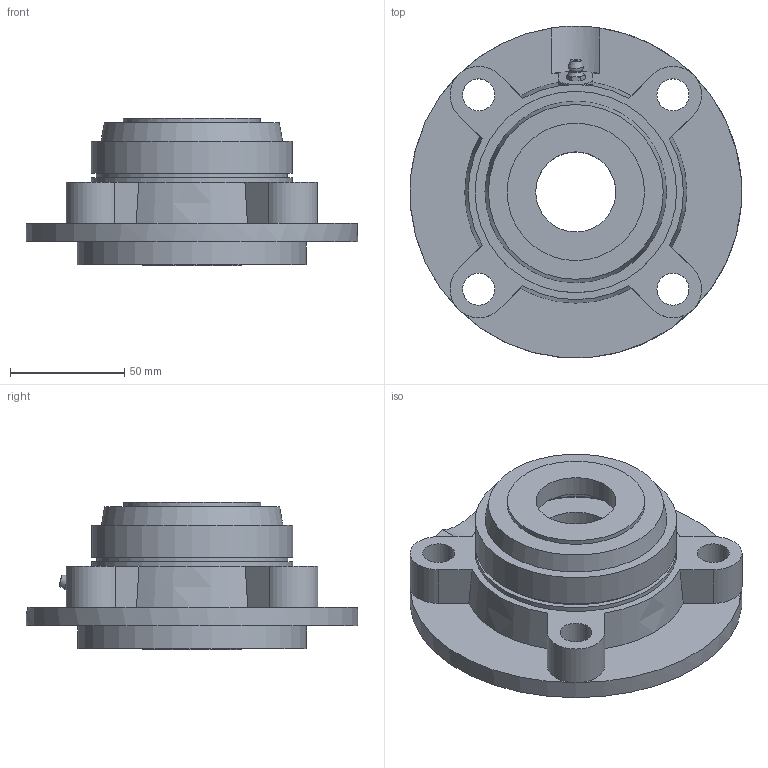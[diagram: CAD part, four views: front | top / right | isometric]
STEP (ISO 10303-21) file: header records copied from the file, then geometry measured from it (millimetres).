
FILE_DESCRIPTION((''),'2;1');
FILE_NAME('\\Ts-tgl068\j-cad-d-base\00.3DCADデータ作成フォルダ\02.フランジ形\UKFC200C(E)\UKFC208C+H.stp','2014-05-22T07:49:51',('btec_1106_2'),(''),'Autodesk Inventor 2012','Autodesk Inventor 2012','');
FILE_SCHEMA(('AUTOMOTIVE_DESIGN { 1 0 10303 214 1 1 1 1 }'));
Length unit declared in the file: millimetre
Products named in the file (5): UKFC200C+H; FC208C; UK208; GU1; 208CPA35
Assembly tree (4 placements, depth 2):
  UKFC200C+H
    FC208C
    UK208
    GU1
    208CPA35
Bounding box: 144.83 x 144.89 x 64.5 mm (x, y, z)
Volume: 308816.2 mm3; surface area: 105389.9 mm2
Topology: 4 solids, 4 shells, 206 faces, 521 edges, 340 vertices
Faces by surface type: plane 91, cylinder 55, cone 52, sphere 4, bspline 2, torus 2
Full cylindrical faces by diameter (mm): 5.359 x1, 6.35 x1, 14 x4, 35 x2, 53 x2, 60 x2, 82 x1, 83.6 x1, 86.4 x2, 88 x3, 100 x1, 145 x1
Entity records: 6112 total; most frequent: CARTESIAN_POINT 1379, DIRECTION 953, ORIENTED_EDGE 952, EDGE_CURVE 476, AXIS2_PLACEMENT_3D 398, VERTEX_POINT 326, EDGE_LOOP 273, FACE_OUTER_BOUND 206
